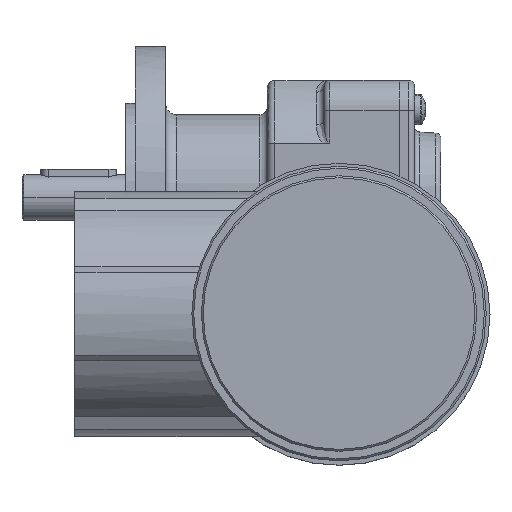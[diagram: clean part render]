
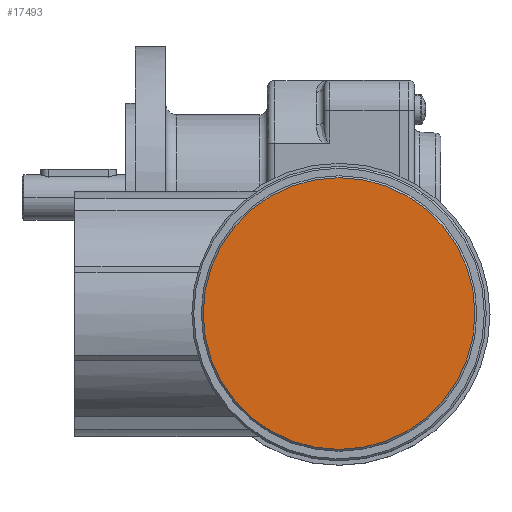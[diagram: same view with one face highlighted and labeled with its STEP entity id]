
A CAD part, top view. The second image highlights one B-rep face of the part: STEP entity #17493.
In plain terms, the highlighted planar face has unit normal (0, 0, 1).
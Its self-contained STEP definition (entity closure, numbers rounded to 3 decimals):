
#1489 = AXIS2_PLACEMENT_3D ( 'NONE', #4464, #17616, #16206 ) ;
#4099 = CARTESIAN_POINT ( 'NONE',  ( -49.116, -9.414, 162. ) ) ;
#4464 = CARTESIAN_POINT ( 'NONE',  ( -49.116, -9.414, 162. ) ) ;
#5419 = VERTEX_POINT ( 'NONE', #15462 ) ;
#5700 = DIRECTION ( 'NONE',  ( 0., -1., 0. ) ) ;
#6747 = ORIENTED_EDGE ( 'NONE', *, *, #17576, .T. ) ;
#7001 = EDGE_LOOP ( 'NONE', ( #14089, #6747 ) ) ;
#8312 = AXIS2_PLACEMENT_3D ( 'NONE', #10188, #17227, #5700 ) ;
#8369 = DIRECTION ( 'NONE',  ( 0., 0., 1. ) ) ;
#10188 = CARTESIAN_POINT ( 'NONE',  ( -49.116, -9.414, 162. ) ) ;
#11407 = VERTEX_POINT ( 'NONE', #17136 ) ;
#12146 = AXIS2_PLACEMENT_3D ( 'NONE', #4099, #8369, #13986 ) ;
#13986 = DIRECTION ( 'NONE',  ( 0., -1., 0. ) ) ;
#14089 = ORIENTED_EDGE ( 'NONE', *, *, #17615, .T. ) ;
#15194 = FACE_OUTER_BOUND ( 'NONE', #7001, .T. ) ;
#15462 = CARTESIAN_POINT ( 'NONE',  ( -49.116, -45.414, 162. ) ) ;
#16206 = DIRECTION ( 'NONE',  ( 0., -1., 0. ) ) ;
#16863 = PLANE ( 'NONE',  #12146 ) ;
#17136 = CARTESIAN_POINT ( 'NONE',  ( -49.116, 26.586, 162. ) ) ;
#17160 = CIRCLE ( 'NONE', #8312, 36. ) ;
#17227 = DIRECTION ( 'NONE',  ( 0., 0., 1. ) ) ;
#17493 = ADVANCED_FACE ( 'NONE', ( #15194 ), #16863, .T. ) ;
#17576 = EDGE_CURVE ( 'NONE', #5419, #11407, #17160, .T. ) ;
#17615 = EDGE_CURVE ( 'NONE', #11407, #5419, #17777, .T. ) ;
#17616 = DIRECTION ( 'NONE',  ( 0., 0., 1. ) ) ;
#17777 = CIRCLE ( 'NONE', #1489, 36. ) ;
